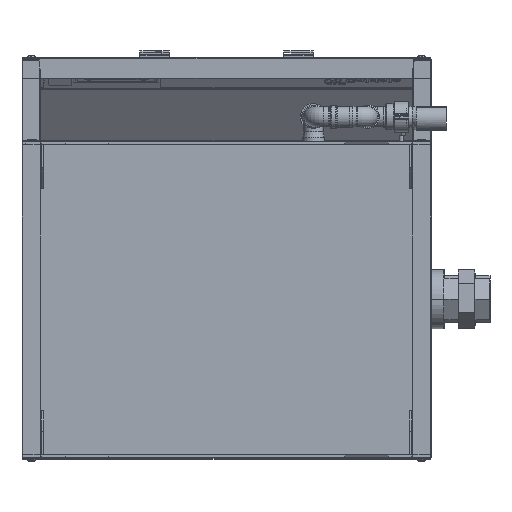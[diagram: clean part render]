
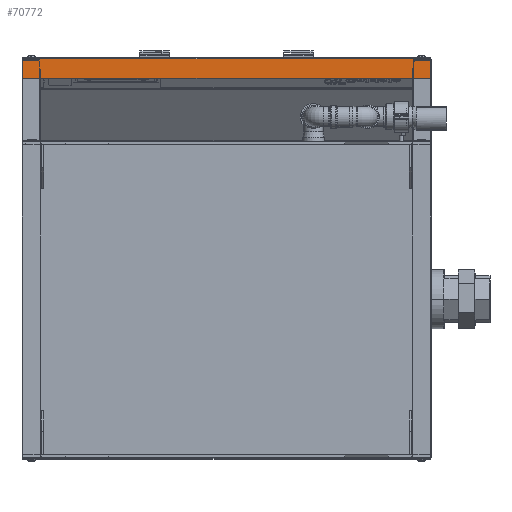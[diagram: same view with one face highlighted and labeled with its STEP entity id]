
A CAD part, front view. The second image highlights one B-rep face of the part: STEP entity #70772.
In plain terms, the highlighted planar face has unit normal (0, -1, 0).
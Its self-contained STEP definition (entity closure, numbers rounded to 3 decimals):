
#177 = DIRECTION ( 'NONE',  ( -1., 0., 0. ) ) ;
#936 = EDGE_CURVE ( 'NONE', #13636, #31701, #67288, .T. ) ;
#2015 = EDGE_CURVE ( 'NONE', #64893, #31701, #36530, .T. ) ;
#4937 = ORIENTED_EDGE ( 'NONE', *, *, #52047, .F. ) ;
#6037 = CARTESIAN_POINT ( 'NONE',  ( -270.5, -703.514, 375. ) ) ;
#6675 = DIRECTION ( 'NONE',  ( 0., 0., 1. ) ) ;
#9942 = DIRECTION ( 'NONE',  ( -1., 0., 0. ) ) ;
#10107 = CARTESIAN_POINT ( 'NONE',  ( 420.5, -703.514, 375. ) ) ;
#13636 = VERTEX_POINT ( 'NONE', #34256 ) ;
#24924 = CARTESIAN_POINT ( 'NONE',  ( 420.5, -703.514, 408.4 ) ) ;
#27246 = PLANE ( 'NONE',  #37321 ) ;
#31701 = VERTEX_POINT ( 'NONE', #45692 ) ;
#34256 = CARTESIAN_POINT ( 'NONE',  ( 420.5, -703.514, 408.4 ) ) ;
#35022 = ORIENTED_EDGE ( 'NONE', *, *, #2015, .F. ) ;
#35195 = VECTOR ( 'NONE', #177, 1000. ) ;
#36317 = EDGE_LOOP ( 'NONE', ( #67726, #71861, #35022, #4937 ) ) ;
#36530 = LINE ( 'NONE', #60463, #55445 ) ;
#36535 = DIRECTION ( 'NONE',  ( 0., 0., -1. ) ) ;
#37321 = AXIS2_PLACEMENT_3D ( 'NONE', #75122, #63711, #9942 ) ;
#42017 = LINE ( 'NONE', #47893, #68389 ) ;
#45692 = CARTESIAN_POINT ( 'NONE',  ( -270.5, -703.514, 408.4 ) ) ;
#47893 = CARTESIAN_POINT ( 'NONE',  ( 420.5, -703.514, 1249.499 ) ) ;
#50273 = VERTEX_POINT ( 'NONE', #74006 ) ;
#50547 = DIRECTION ( 'NONE',  ( -1., 0., 0. ) ) ;
#51323 = LINE ( 'NONE', #10107, #61850 ) ;
#52047 = EDGE_CURVE ( 'NONE', #50273, #64893, #51323, .T. ) ;
#55445 = VECTOR ( 'NONE', #6675, 1000. ) ;
#60463 = CARTESIAN_POINT ( 'NONE',  ( -270.5, -703.514, 375. ) ) ;
#61850 = VECTOR ( 'NONE', #50547, 1000. ) ;
#63711 = DIRECTION ( 'NONE',  ( 0., 1., 0. ) ) ;
#64893 = VERTEX_POINT ( 'NONE', #6037 ) ;
#66113 = EDGE_CURVE ( 'NONE', #13636, #50273, #42017, .T. ) ;
#67288 = LINE ( 'NONE', #24924, #35195 ) ;
#67726 = ORIENTED_EDGE ( 'NONE', *, *, #66113, .F. ) ;
#68389 = VECTOR ( 'NONE', #36535, 1000. ) ;
#69610 = FACE_OUTER_BOUND ( 'NONE', #36317, .T. ) ;
#70772 = ADVANCED_FACE ( 'NONE', ( #69610 ), #27246, .F. ) ;
#71861 = ORIENTED_EDGE ( 'NONE', *, *, #936, .T. ) ;
#74006 = CARTESIAN_POINT ( 'NONE',  ( 420.5, -703.514, 375. ) ) ;
#75122 = CARTESIAN_POINT ( 'NONE',  ( 420.5, -703.514, 375. ) ) ;
